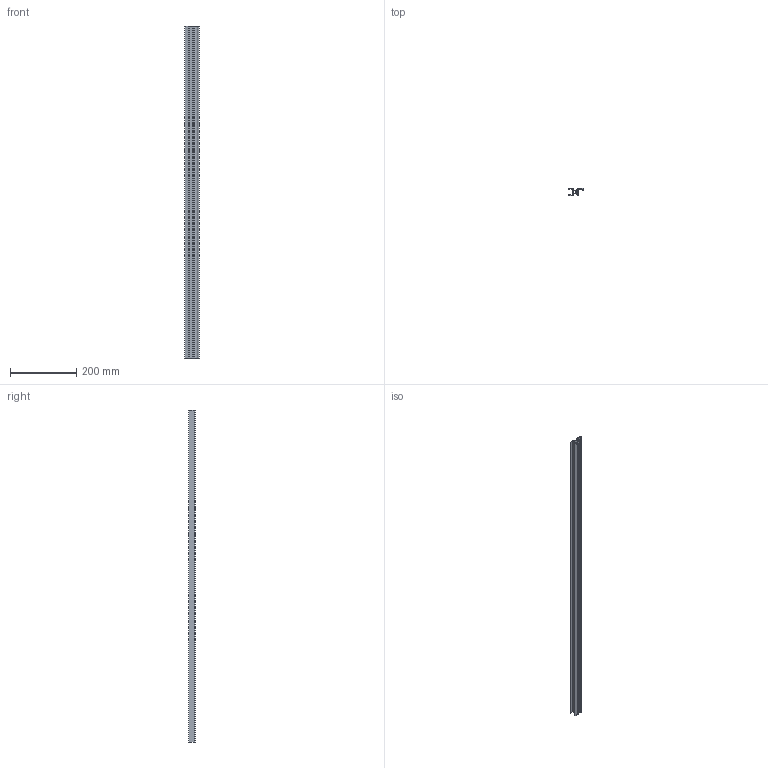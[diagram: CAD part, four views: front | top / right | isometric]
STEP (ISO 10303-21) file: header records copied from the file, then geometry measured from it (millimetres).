
FILE_DESCRIPTION(/* description */ (''),/* implementation_level */ '2;1');
FILE_NAME(/* name */ 'C:\Users\Agata\Desktop\Profile uproszczone\LUCERA10 _uproszczony_R3D.stp',/* time_stamp */ '2026-03-31T09:37:10+02:00',/* author */ ('Agata'),/* organization */ (''),/* preprocessor_version */ 'ST-DEVELOPER v18.1',/* originating_system */ 'Autodesk Inventor 2022',/* authorisation */ '');
FILE_SCHEMA (('AUTOMOTIVE_DESIGN { 1 0 10303 214 3 1 1 }'));
Length unit declared in the file: millimetre
Products named in the file (1): LUCERA10 _uproszczony_R3D
Bounding box: 43.01 x 21 x 1000 mm (x, y, z)
Volume: 175987.9 mm3; surface area: 228011.8 mm2
Topology: 1 solids, 1 shells, 62 faces, 180 edges, 120 vertices
Faces by surface type: plane 59, cylinder 3
Entity records: 2055 total; most frequent: CARTESIAN_POINT 363, ORIENTED_EDGE 360, DIRECTION 312, EDGE_CURVE 180, LINE 174, VECTOR 174, VERTEX_POINT 120, AXIS2_PLACEMENT_3D 69
